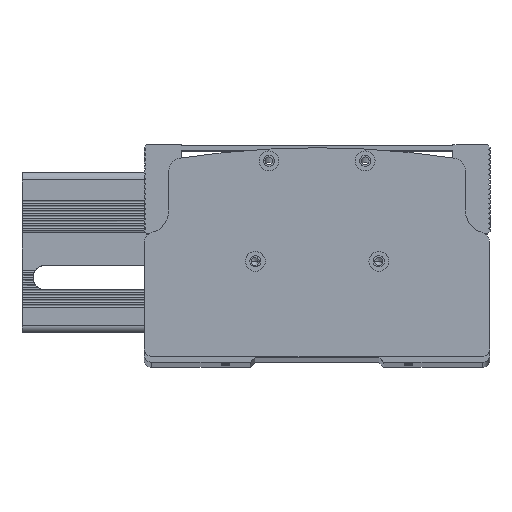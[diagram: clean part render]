
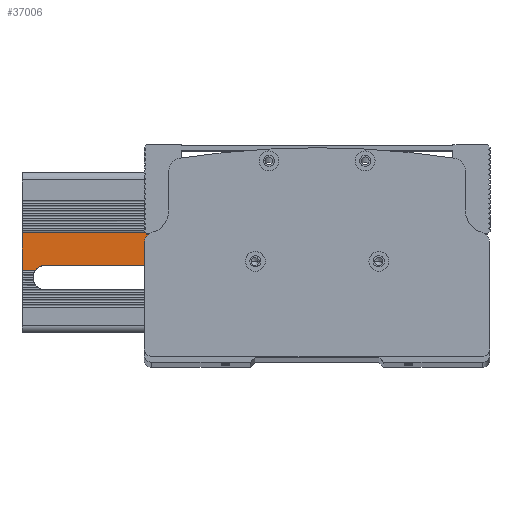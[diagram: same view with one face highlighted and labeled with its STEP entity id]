
A CAD part, top view. The second image highlights one B-rep face of the part: STEP entity #37006.
In plain terms, the highlighted planar face has unit normal (0, 0, 1) as drawn and (-1, 0, 0) by its records, which use the part's own axes.
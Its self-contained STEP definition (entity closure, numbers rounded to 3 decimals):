
#569 = CARTESIAN_POINT ( 'NONE',  ( 0., 25.5, 5.5 ) ) ;
#2215 = DIRECTION ( 'NONE',  ( 0., 0., 1. ) ) ;
#2390 = CARTESIAN_POINT ( 'NONE',  ( 0., 25.5, 0. ) ) ;
#4614 = CARTESIAN_POINT ( 'NONE',  ( 0., 0., 0. ) ) ;
#5530 = VECTOR ( 'NONE', #29990, 1000. ) ;
#6879 = LINE ( 'NONE', #28235, #48531 ) ;
#9973 = VERTEX_POINT ( 'NONE', #45997 ) ;
#10280 = CARTESIAN_POINT ( 'NONE',  ( 0., 25.5, 53.5 ) ) ;
#10555 = CARTESIAN_POINT ( 'NONE',  ( 0., 25.5, 148. ) ) ;
#11477 = EDGE_CURVE ( 'NONE', #41459, #9973, #16249, .T. ) ;
#11528 = CARTESIAN_POINT ( 'NONE',  ( 0., 40.5, 148. ) ) ;
#12417 = DIRECTION ( 'NONE',  ( -1., 0., 0. ) ) ;
#13980 = DIRECTION ( 'NONE',  ( 1., 0., 0. ) ) ;
#14508 = EDGE_CURVE ( 'NONE', #45466, #33200, #32707, .T. ) ;
#15250 = ORIENTED_EDGE ( 'NONE', *, *, #14508, .T. ) ;
#16249 = LINE ( 'NONE', #25897, #5530 ) ;
#18835 = CARTESIAN_POINT ( 'NONE',  ( 0., 25.5, 87. ) ) ;
#18888 = VECTOR ( 'NONE', #49832, 1000. ) ;
#19403 = VECTOR ( 'NONE', #43588, 1000. ) ;
#20174 = CIRCLE ( 'NONE', #45306, 5. ) ;
#21146 = EDGE_CURVE ( 'NONE', #21819, #27885, #51089, .T. ) ;
#21612 = CARTESIAN_POINT ( 'NONE',  ( 0., 25.5, 148. ) ) ;
#21819 = VERTEX_POINT ( 'NONE', #10280 ) ;
#22438 = VERTEX_POINT ( 'NONE', #2390 ) ;
#24066 = ORIENTED_EDGE ( 'NONE', *, *, #29575, .F. ) ;
#25395 = CARTESIAN_POINT ( 'NONE',  ( 0., 27.5, 49.5 ) ) ;
#25897 = CARTESIAN_POINT ( 'NONE',  ( 0., 27.5, 9.5 ) ) ;
#26361 = ORIENTED_EDGE ( 'NONE', *, *, #45743, .T. ) ;
#26410 = CIRCLE ( 'NONE', #31509, 5. ) ;
#26424 = DIRECTION ( 'NONE',  ( -1., 0., 0. ) ) ;
#26997 = CARTESIAN_POINT ( 'NONE',  ( 0., 40.5, 0. ) ) ;
#27182 = FACE_OUTER_BOUND ( 'NONE', #48876, .T. ) ;
#27885 = VERTEX_POINT ( 'NONE', #18835 ) ;
#28235 = CARTESIAN_POINT ( 'NONE',  ( 0., 0., 87. ) ) ;
#29292 = ORIENTED_EDGE ( 'NONE', *, *, #30399, .F. ) ;
#29575 = EDGE_CURVE ( 'NONE', #9973, #33933, #20174, .T. ) ;
#29990 = DIRECTION ( 'NONE',  ( 0., 0., -1. ) ) ;
#30059 = CARTESIAN_POINT ( 'NONE',  ( 0., 0., 87. ) ) ;
#30399 = EDGE_CURVE ( 'NONE', #21819, #41459, #26410, .T. ) ;
#31509 = AXIS2_PLACEMENT_3D ( 'NONE', #36592, #12417, #40639 ) ;
#32606 = ORIENTED_EDGE ( 'NONE', *, *, #34592, .T. ) ;
#32707 = LINE ( 'NONE', #11528, #19403 ) ;
#33022 = DIRECTION ( 'NONE',  ( 0., -1., 0. ) ) ;
#33200 = VERTEX_POINT ( 'NONE', #26997 ) ;
#33933 = VERTEX_POINT ( 'NONE', #569 ) ;
#34592 = EDGE_CURVE ( 'NONE', #33200, #22438, #43736, .T. ) ;
#34695 = DIRECTION ( 'NONE',  ( 0., 0., 1. ) ) ;
#36592 = CARTESIAN_POINT ( 'NONE',  ( 0., 22.5, 49.5 ) ) ;
#37006 = ADVANCED_FACE ( 'NONE', ( #27182 ), #38151, .F. ) ;
#37882 = EDGE_CURVE ( 'NONE', #45466, #27885, #6879, .T. ) ;
#38151 = PLANE ( 'NONE',  #40851 ) ;
#38961 = ORIENTED_EDGE ( 'NONE', *, *, #37882, .F. ) ;
#40098 = ORIENTED_EDGE ( 'NONE', *, *, #21146, .T. ) ;
#40639 = DIRECTION ( 'NONE',  ( 0., 0., 1. ) ) ;
#40738 = CARTESIAN_POINT ( 'NONE',  ( 0., 40.5, 87. ) ) ;
#40823 = ORIENTED_EDGE ( 'NONE', *, *, #11477, .F. ) ;
#40851 = AXIS2_PLACEMENT_3D ( 'NONE', #30059, #13980, #42140 ) ;
#41459 = VERTEX_POINT ( 'NONE', #25395 ) ;
#42140 = DIRECTION ( 'NONE',  ( 0., 0., -1. ) ) ;
#42451 = VECTOR ( 'NONE', #33022, 1000. ) ;
#43174 = LINE ( 'NONE', #10555, #51391 ) ;
#43588 = DIRECTION ( 'NONE',  ( 0., 0., -1. ) ) ;
#43736 = LINE ( 'NONE', #4614, #42451 ) ;
#44398 = DIRECTION ( 'NONE',  ( 0., -1., 0. ) ) ;
#45306 = AXIS2_PLACEMENT_3D ( 'NONE', #50565, #26424, #2215 ) ;
#45466 = VERTEX_POINT ( 'NONE', #40738 ) ;
#45743 = EDGE_CURVE ( 'NONE', #22438, #33933, #43174, .T. ) ;
#45997 = CARTESIAN_POINT ( 'NONE',  ( 0., 27.5, 9.5 ) ) ;
#48531 = VECTOR ( 'NONE', #44398, 1000. ) ;
#48876 = EDGE_LOOP ( 'NONE', ( #24066, #40823, #29292, #40098, #38961, #15250, #32606, #26361 ) ) ;
#49832 = DIRECTION ( 'NONE',  ( 0., 0., 1. ) ) ;
#50565 = CARTESIAN_POINT ( 'NONE',  ( 0., 22.5, 9.5 ) ) ;
#51089 = LINE ( 'NONE', #21612, #18888 ) ;
#51391 = VECTOR ( 'NONE', #34695, 1000. ) ;
